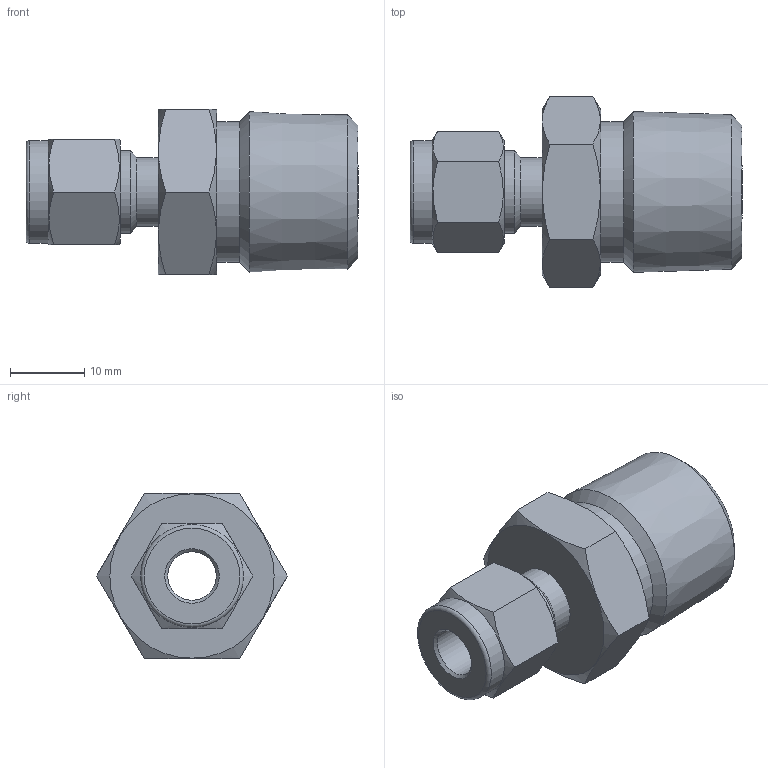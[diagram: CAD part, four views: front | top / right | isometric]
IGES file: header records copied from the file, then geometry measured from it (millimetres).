
Global section: file name: No Iges File Name specified; native system: Autodesk Inventor 2012; preprocessor: AutoDesk Inventor Iges Exporter R2012; author: 硅己绕,,1; organization: 1; date: 20150603.093018; units: millimetre
Bounding box: 44.84 x 25.77 x 22.32 mm (x, y, z)
Volume: 10860.8 mm3; surface area: 4498.3 mm2
Topology: 1 solids, 1 shells, 34 faces, 72 edges, 44 vertices
Faces by surface type: plane 18, cone 8, cylinder 4, revolution 3, torus 1
Full cylindrical faces by diameter (mm): 9.3 x1, 11.113 x1, 13.9 x1, 18.996 x1
